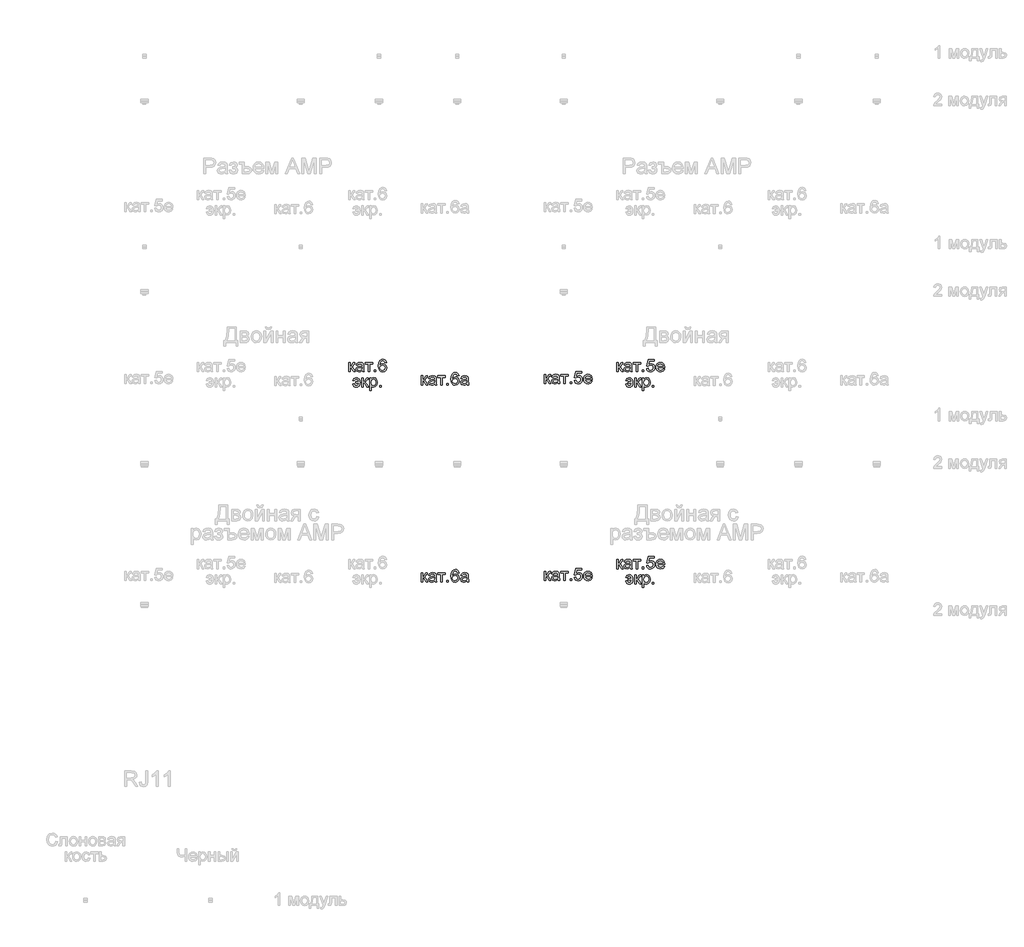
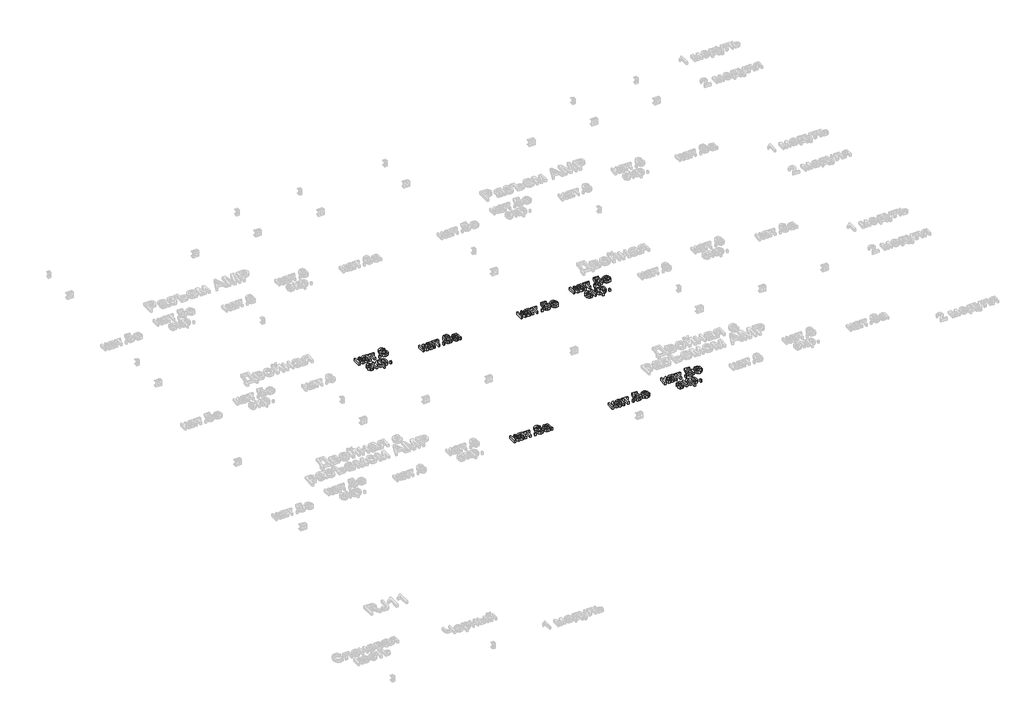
# One storey, part 29 of 47: 7 proxies.
"""IFC4 building model written with IfcOpenShell, lengths in millimetres."""

from ifc_helpers import new_model, si_unit, origin, origin_with_axes, place, context, project, spatial, polyline, outline, extrude, element, save

model = new_model("IFC4")

# Units and contexts
model_context = context("Model", 3, world=origin())
ifc_project = project(units=[si_unit("LENGTHUNIT", "METRE", prefix="MILLI")], contexts=[model_context])

# Site, building, storey
site = spatial("IfcSite", under=ifc_project)
building = spatial("IfcBuilding", under=site)
storey = spatial("IfcBuildingStorey", under=building, Name="Этаж 01", Elevation=0.0)

# Proxies
placement = place(None, origin())
element("IfcBuildingElementProxy", 1, Name="80 мм Arial", ObjectType="80 мм Arial", at=placement, inside=storey, context=model_context, shape_type="SweptSolid", body=[
    extrude(outline(polyline([(4090.9396889, -22278.8197599), (4100.9853199, -22278.8197599), (4100.9853199, -22303.9338374), (4107.7151079, -22302.1287631), (4113.2284327, -22291.6122431), (4117.8097899, -22282.5378206), (4121.8515867, -22279.5849544), (4129.1994164, -22278.8197599), (4131.122213, -22278.8197599), (4131.122213, -22288.924252), (4128.4146015, -22288.8653909), (4123.5095082, -22289.924891), (4120.0563226, -22296.5369568), (4116.0047155, -22303.6885828), (4110.3246175, -22307.1908193), (4116.661998, -22311.1001787), (4122.8816563, -22319.3358303), (4133.6336207, -22337.8378421), (4122.2145636, -22337.8378421), (4111.6784233, -22319.7282377), (4106.3809225, -22312.0664821), (4100.9853199, -22310.2123568), (4100.9853199, -22337.8378421), (4090.9396889, -22337.8378421), (4090.9396889, -22278.8197599)])), origin_with_axes(), (0.0, 0.0, 1.0), 20.0),
    extrude(outline(polyline([(4177.5832564, -22330.3036188), (4167.8417412, -22337.1118883), (4157.0799666, -22339.093546), (4142.4922192, -22334.3257953), (4137.4007324, -22322.1415436), (4139.3235289, -22314.1952925), (4144.375775, -22308.4269029), (4151.4096787, -22305.1306802), (4160.101504, -22303.6199114), (4177.5243953, -22300.1667258), (4177.5832564, -22297.9300033), (4174.8167838, -22290.5135022), (4163.7116527, -22287.609687), (4153.5482994, -22289.5422938), (4148.7020673, -22296.3996142), (4138.6564362, -22295.1439103), (4143.0023489, -22285.3337237), (4151.7530353, -22279.5849544), (4165.0065973, -22277.564056), (4177.1810388, -22279.34951), (4184.0579795, -22283.8327652), (4187.1383781, -22290.6508448), (4187.6288874, -22299.440772), (4187.6288874, -22311.9389496), (4188.1390171, -22329.3912715), (4190.1402952, -22337.8378421), (4180.0946642, -22337.8378421), (4177.5832564, -22330.3036188)]), holes=[polyline([(4177.5832564, -22310.2123568), (4161.3768283, -22313.2927554), (4152.7340539, -22314.9212463), (4148.8197895, -22317.5699967), (4147.4463634, -22321.4352102), (4150.4384703, -22326.8700535), (4159.2185872, -22329.047915), (4169.3819405, -22326.6444193), (4175.9351451, -22320.8269786), (4177.5243953, -22313.0573109), (4177.5832564, -22310.2123568)])]), origin_with_axes(), (0.0, 0.0, 1.0), 20.0),
    extrude(outline(polyline([(4196.4188146, -22278.8197599), (4244.1355619, -22278.8197599), (4244.1355619, -22288.8653909), (4225.3000037, -22288.8653909), (4225.3000037, -22337.8378421), (4215.2543727, -22337.8378421), (4215.2543727, -22288.8653909), (4196.4188146, -22288.8653909), (4196.4188146, -22278.8197599)])), origin_with_axes(), (0.0, 0.0, 1.0), 20.0),
    extrude(outline(polyline([(4255.4368968, -22337.8378421), (4255.4368968, -22327.7922111), (4265.4825278, -22327.7922111), (4265.4825278, -22337.8378421), (4255.4368968, -22337.8378421)])), origin_with_axes(), (0.0, 0.0, 1.0), 20.0),
    extrude(outline(polyline([(4333.2905372, -22278.8197599), (4323.2449061, -22280.0754638), (4319.4385538, -22271.6975645), (4309.3733024, -22267.518425), (4300.30869, -22269.9513512), (4293.4513696, -22279.0846349), (4290.5966053, -22296.9882253), (4299.4552038, -22288.9733029), (4310.4328025, -22286.3539831), (4319.713239, -22288.1443422), (4327.5025271, -22293.5154193), (4332.7853126, -22301.7216404), (4334.546241, -22312.0174311), (4331.230398, -22325.8792247), (4322.1069245, -22335.6894112), (4308.9416542, -22339.093546), (4297.54467, -22336.8372031), (4288.4677949, -22330.0681744), (4282.5301795, -22318.1193672), (4280.5509743, -22300.3236888), (4282.7484561, -22280.3158133), (4289.3409015, -22266.6355082), (4298.3417476, -22259.7634725), (4310.0011543, -22257.472794), (4318.8156069, -22258.8903659), (4325.8740361, -22263.1430818), (4333.2905372, -22278.8197599)]), holes=[polyline([(4290.5966053, -22311.8604681), (4292.9216196, -22320.5621036), (4299.1020371, -22326.8798637), (4308.1568392, -22329.047915), (4319.9977344, -22324.5548495), (4324.50061, -22312.3509775), (4320.0565955, -22300.6670453), (4307.7448114, -22296.3996142), (4295.5899903, -22300.6670453), (4290.5966053, -22311.8604681)])]), origin_with_axes(), (0.0, 0.0, 1.0), 20.0),
    extrude(outline(polyline([(4135.5171766, -22399.0022839), (4154.3527347, -22399.0022839), (4149.8106183, -22389.0253242), (4140.2653068, -22385.1895413), (4132.122852, -22387.700949), (4127.9829533, -22395.2351723), (4117.9373223, -22393.9794684), (4124.8338834, -22380.4119804), (4139.6570753, -22375.1439103), (4149.9111727, -22377.1942393), (4157.7568694, -22383.3452262), (4162.7379916, -22393.0867415), (4164.3983657, -22405.9086553), (4163.0273922, -22418.6717079), (4158.2866195, -22428.7075288), (4150.5390247, -22435.0350991), (4140.1475846, -22436.6734002), (4131.2399352, -22435.2043248), (4124.2158417, -22430.7970985), (4116.6816184, -22415.3264343), (4126.7272494, -22414.0707305), (4131.0535417, -22423.4885095), (4139.9906216, -22426.6277692), (4149.9381508, -22422.2328057), (4154.3527347, -22409.047915), (4135.5171766, -22409.047915), (4135.5171766, -22399.0022839)])), origin_with_axes(), (0.0, 0.0, 1.0), 20.0),
    extrude(outline(polyline([(4175.6997006, -22376.3996142), (4185.7453316, -22376.3996142), (4185.7453316, -22401.5136917), (4192.4751196, -22399.7086174), (4197.9884444, -22389.1920974), (4202.5698015, -22380.1176749), (4206.6115984, -22377.1648087), (4213.9594281, -22376.3996142), (4215.8822247, -22376.3996142), (4215.8822247, -22386.5041063), (4213.1746132, -22386.4452452), (4208.2695199, -22387.5047453), (4204.8163343, -22394.116811), (4200.7647272, -22401.268437), (4195.0846292, -22404.7706736), (4201.4220097, -22408.680033), (4207.641668, -22416.9156846), (4218.3936324, -22435.4176964), (4206.9745753, -22435.4176964), (4196.438435, -22417.308092), (4191.1409342, -22409.6463363), (4185.7453316, -22407.7922111), (4185.7453316, -22435.4176964), (4175.6997006, -22435.4176964), (4175.6997006, -22376.3996142)])), origin_with_axes(), (0.0, 0.0, 1.0), 20.0),
    extrude(outline(polyline([(4224.6721518, -22458.0203662), (4224.6721518, -22376.3996142), (4234.7177828, -22376.3996142), (4234.7177828, -22386.2490414), (4241.6633949, -22377.9201931), (4251.0419332, -22375.1439103), (4263.7755553, -22379.0287441), (4272.0945935, -22389.9769123), (4274.9003069, -22405.4573867), (4271.7316166, -22421.7324861), (4262.5296617, -22432.8179969), (4249.8254701, -22436.6734002), (4241.0845939, -22434.0933212), (4234.7177828, -22427.5695471), (4234.7177828, -22458.0203662), (4224.6721518, -22458.0203662)]), holes=[polyline([(4234.7177828, -22406.3795442), (4239.0636955, -22421.6834352), (4249.609646, -22426.6277692), (4260.3714206, -22421.5068519), (4264.8546759, -22405.63397), (4260.4793327, -22390.2908383), (4250.0216738, -22385.1895413), (4239.3580011, -22390.6145744), (4234.7177828, -22406.3795442)])]), origin_with_axes(), (0.0, 0.0, 1.0), 20.0),
    extrude(outline(polyline([(4288.7130495, -22435.4176964), (4288.7130495, -22425.3720654), (4298.7586805, -22425.3720654), (4298.7586805, -22435.4176964), (4288.7130495, -22435.4176964)])), origin_with_axes(), (0.0, 0.0, 1.0), 20.0),
])
element("IfcBuildingElementProxy", 2, Name="80 мм Arial", ObjectType="80 мм Arial", at=placement, inside=storey, context=model_context, shape_type="SweptSolid", body=[
    extrude(outline(polyline([(4554.3437127, -22363.42412), (4564.3893437, -22363.42412), (4564.3893437, -22388.5381975), (4571.1191317, -22386.7331232), (4576.6324565, -22376.2166032), (4581.2138137, -22367.1421807), (4585.2556105, -22364.1893145), (4592.6034402, -22363.42412), (4594.5262368, -22363.42412), (4594.5262368, -22373.5286121), (4591.8186253, -22373.469751), (4586.913532, -22374.5292512), (4583.4603464, -22381.1413169), (4579.4087393, -22388.2929429), (4573.7286413, -22391.7951795), (4580.0660218, -22395.7045388), (4586.2856801, -22403.9401904), (4597.0376445, -22422.4422022), (4585.6185874, -22422.4422022), (4575.0824471, -22404.3325979), (4569.7849463, -22396.6708422), (4564.3893437, -22394.8167169), (4564.3893437, -22422.4422022), (4554.3437127, -22422.4422022), (4554.3437127, -22363.42412)])), origin_with_axes(), (0.0, 0.0, 1.0), 20.0),
    extrude(outline(polyline([(4640.9872802, -22414.9079789), (4631.245765, -22421.7162484), (4620.4839904, -22423.6979061), (4605.896243, -22418.9301554), (4600.8047562, -22406.7459037), (4602.7275527, -22398.7996526), (4607.7797988, -22393.031263), (4614.8137026, -22389.7350403), (4623.5055278, -22388.2242716), (4640.9284191, -22384.7710859), (4640.9872802, -22382.5343634), (4638.2208076, -22375.1178623), (4627.1156765, -22372.2140471), (4616.9523232, -22374.1466539), (4612.1060911, -22381.0039743), (4602.0604601, -22379.7482704), (4606.4063727, -22369.9380839), (4615.1570591, -22364.1893145), (4628.4106211, -22362.1684161), (4640.5850626, -22363.9538701), (4647.4620034, -22368.4371253), (4650.5424019, -22375.255205), (4651.0329113, -22384.0451321), (4651.0329113, -22396.5433097), (4651.543041, -22413.9956316), (4653.544319, -22422.4422022), (4643.498688, -22422.4422022), (4640.9872802, -22414.9079789)]), holes=[polyline([(4640.9872802, -22394.8167169), (4624.7808521, -22397.8971155), (4616.1380777, -22399.5256065), (4612.2238133, -22402.1743568), (4610.8503872, -22406.0395703), (4613.8424941, -22411.4744137), (4622.622611, -22413.6522751), (4632.7859643, -22411.2487794), (4639.3391689, -22405.4313387), (4640.9284191, -22397.661671), (4640.9872802, -22394.8167169)])]), origin_with_axes(), (0.0, 0.0, 1.0), 20.0),
    extrude(outline(polyline([(4659.8228384, -22363.42412), (4707.5395857, -22363.42412), (4707.5395857, -22373.469751), (4688.7040276, -22373.469751), (4688.7040276, -22422.4422022), (4678.6583965, -22422.4422022), (4678.6583965, -22373.469751), (4659.8228384, -22373.469751), (4659.8228384, -22363.42412)])), origin_with_axes(), (0.0, 0.0, 1.0), 20.0),
    extrude(outline(polyline([(4718.8409206, -22422.4422022), (4718.8409206, -22412.3965712), (4728.8865516, -22412.3965712), (4728.8865516, -22422.4422022), (4718.8409206, -22422.4422022)])), origin_with_axes(), (0.0, 0.0, 1.0), 20.0),
    extrude(outline(polyline([(4796.694561, -22363.42412), (4786.64893, -22364.6798239), (4782.8425776, -22356.3019246), (4772.7773262, -22352.1227851), (4763.7127138, -22354.5557114), (4756.8553934, -22363.688995), (4754.0006292, -22381.5925855), (4762.8592276, -22373.5776631), (4773.8368263, -22370.9583433), (4783.1172628, -22372.7487023), (4790.9065509, -22378.1197794), (4796.1893364, -22386.3260005), (4797.9502648, -22396.6217912), (4794.6344218, -22410.4835848), (4785.5109483, -22420.2937714), (4772.345678, -22423.6979061), (4760.9486938, -22421.4415632), (4751.8718187, -22414.6725345), (4745.9342033, -22402.7237273), (4743.9549981, -22384.9280489), (4746.1524799, -22364.9201734), (4752.7449253, -22351.2398683), (4761.7457714, -22344.3678326), (4773.4051781, -22342.0771541), (4782.2196307, -22343.494726), (4789.2780599, -22347.7474419), (4796.694561, -22363.42412)]), holes=[polyline([(4754.0006292, -22396.4648283), (4756.3256434, -22405.1664637), (4762.5060609, -22411.4842238), (4771.5608631, -22413.6522751), (4783.4017582, -22409.1592096), (4787.9046338, -22396.9553376), (4783.4606193, -22385.2714054), (4771.1488352, -22381.0039743), (4758.9940141, -22385.2714054), (4754.0006292, -22396.4648283)])]), origin_with_axes(), (0.0, 0.0, 1.0), 20.0),
    extrude(outline(polyline([(4846.922716, -22414.9079789), (4837.1812008, -22421.7162484), (4826.4194262, -22423.6979061), (4811.8316788, -22418.9301554), (4806.740192, -22406.7459037), (4808.6629885, -22398.7996526), (4813.7152346, -22393.031263), (4820.7491384, -22389.7350403), (4829.4409636, -22388.2242716), (4846.8638549, -22384.7710859), (4846.922716, -22382.5343634), (4844.1562434, -22375.1178623), (4833.0511123, -22372.2140471), (4822.887759, -22374.1466539), (4818.0415269, -22381.0039743), (4807.9958959, -22379.7482704), (4812.3418085, -22369.9380839), (4821.0924949, -22364.1893145), (4834.3460569, -22362.1684161), (4846.5204984, -22363.9538701), (4853.3974392, -22368.4371253), (4856.4778377, -22375.255205), (4856.9683471, -22384.0451321), (4856.9683471, -22396.5433097), (4857.4784768, -22413.9956316), (4859.4797548, -22422.4422022), (4849.4341238, -22422.4422022), (4846.922716, -22414.9079789)]), holes=[polyline([(4846.922716, -22394.8167169), (4830.7162879, -22397.8971155), (4822.0735135, -22399.5256065), (4818.1592491, -22402.1743568), (4816.785823, -22406.0395703), (4819.7779299, -22411.4744137), (4828.5580468, -22413.6522751), (4838.7214001, -22411.2487794), (4845.2746047, -22405.4313387), (4846.8638549, -22397.661671), (4846.922716, -22394.8167169)])]), origin_with_axes(), (0.0, 0.0, 1.0), 20.0),
])
element("IfcBuildingElementProxy", 3, Name="80 мм Arial", ObjectType="80 мм Arial", at=placement, inside=storey, context=model_context, shape_type="SweptSolid", body=[
    extrude(outline(polyline([(4554.3437127, -23623.42412), (4564.3893437, -23623.42412), (4564.3893437, -23648.5381975), (4571.1191317, -23646.7331232), (4576.6324565, -23636.2166032), (4581.2138137, -23627.1421807), (4585.2556105, -23624.1893145), (4592.6034402, -23623.42412), (4594.5262368, -23623.42412), (4594.5262368, -23633.5286121), (4591.8186253, -23633.469751), (4586.913532, -23634.5292512), (4583.4603464, -23641.1413169), (4579.4087393, -23648.2929429), (4573.7286413, -23651.7951795), (4580.0660218, -23655.7045388), (4586.2856801, -23663.9401904), (4597.0376445, -23682.4422022), (4585.6185874, -23682.4422022), (4575.0824471, -23664.3325979), (4569.7849463, -23656.6708422), (4564.3893437, -23654.8167169), (4564.3893437, -23682.4422022), (4554.3437127, -23682.4422022), (4554.3437127, -23623.42412)])), origin_with_axes(), (0.0, 0.0, 1.0), 20.0),
    extrude(outline(polyline([(4640.9872802, -23674.9079789), (4631.245765, -23681.7162484), (4620.4839904, -23683.6979061), (4605.896243, -23678.9301554), (4600.8047562, -23666.7459037), (4602.7275527, -23658.7996526), (4607.7797988, -23653.031263), (4614.8137026, -23649.7350403), (4623.5055278, -23648.2242716), (4640.9284191, -23644.7710859), (4640.9872802, -23642.5343634), (4638.2208076, -23635.1178623), (4627.1156765, -23632.2140471), (4616.9523232, -23634.1466539), (4612.1060911, -23641.0039743), (4602.0604601, -23639.7482704), (4606.4063727, -23629.9380839), (4615.1570591, -23624.1893145), (4628.4106211, -23622.1684161), (4640.5850626, -23623.9538701), (4647.4620034, -23628.4371253), (4650.5424019, -23635.255205), (4651.0329113, -23644.0451321), (4651.0329113, -23656.5433097), (4651.543041, -23673.9956316), (4653.544319, -23682.4422022), (4643.498688, -23682.4422022), (4640.9872802, -23674.9079789)]), holes=[polyline([(4640.9872802, -23654.8167169), (4624.7808521, -23657.8971155), (4616.1380777, -23659.5256065), (4612.2238133, -23662.1743568), (4610.8503872, -23666.0395703), (4613.8424941, -23671.4744137), (4622.622611, -23673.6522751), (4632.7859643, -23671.2487794), (4639.3391689, -23665.4313387), (4640.9284191, -23657.661671), (4640.9872802, -23654.8167169)])]), origin_with_axes(), (0.0, 0.0, 1.0), 20.0),
    extrude(outline(polyline([(4659.8228384, -23623.42412), (4707.5395857, -23623.42412), (4707.5395857, -23633.469751), (4688.7040276, -23633.469751), (4688.7040276, -23682.4422022), (4678.6583965, -23682.4422022), (4678.6583965, -23633.469751), (4659.8228384, -23633.469751), (4659.8228384, -23623.42412)])), origin_with_axes(), (0.0, 0.0, 1.0), 20.0),
    extrude(outline(polyline([(4718.8409206, -23682.4422022), (4718.8409206, -23672.3965712), (4728.8865516, -23672.3965712), (4728.8865516, -23682.4422022), (4718.8409206, -23682.4422022)])), origin_with_axes(), (0.0, 0.0, 1.0), 20.0),
    extrude(outline(polyline([(4796.694561, -23623.42412), (4786.64893, -23624.6798239), (4782.8425776, -23616.3019246), (4772.7773262, -23612.1227851), (4763.7127138, -23614.5557114), (4756.8553934, -23623.688995), (4754.0006292, -23641.5925855), (4762.8592276, -23633.5776631), (4773.8368263, -23630.9583433), (4783.1172628, -23632.7487023), (4790.9065509, -23638.1197794), (4796.1893364, -23646.3260005), (4797.9502648, -23656.6217912), (4794.6344218, -23670.4835848), (4785.5109483, -23680.2937714), (4772.345678, -23683.6979061), (4760.9486938, -23681.4415632), (4751.8718187, -23674.6725345), (4745.9342033, -23662.7237273), (4743.9549981, -23644.9280489), (4746.1524799, -23624.9201734), (4752.7449253, -23611.2398683), (4761.7457714, -23604.3678326), (4773.4051781, -23602.0771541), (4782.2196307, -23603.494726), (4789.2780599, -23607.7474419), (4796.694561, -23623.42412)]), holes=[polyline([(4754.0006292, -23656.4648283), (4756.3256434, -23665.1664637), (4762.5060609, -23671.4842238), (4771.5608631, -23673.6522751), (4783.4017582, -23669.1592096), (4787.9046338, -23656.9553376), (4783.4606193, -23645.2714054), (4771.1488352, -23641.0039743), (4758.9940141, -23645.2714054), (4754.0006292, -23656.4648283)])]), origin_with_axes(), (0.0, 0.0, 1.0), 20.0),
    extrude(outline(polyline([(4846.922716, -23674.9079789), (4837.1812008, -23681.7162484), (4826.4194262, -23683.6979061), (4811.8316788, -23678.9301554), (4806.740192, -23666.7459037), (4808.6629885, -23658.7996526), (4813.7152346, -23653.031263), (4820.7491384, -23649.7350403), (4829.4409636, -23648.2242716), (4846.8638549, -23644.7710859), (4846.922716, -23642.5343634), (4844.1562434, -23635.1178623), (4833.0511123, -23632.2140471), (4822.887759, -23634.1466539), (4818.0415269, -23641.0039743), (4807.9958959, -23639.7482704), (4812.3418085, -23629.9380839), (4821.0924949, -23624.1893145), (4834.3460569, -23622.1684161), (4846.5204984, -23623.9538701), (4853.3974392, -23628.4371253), (4856.4778377, -23635.255205), (4856.9683471, -23644.0451321), (4856.9683471, -23656.5433097), (4857.4784768, -23673.9956316), (4859.4797548, -23682.4422022), (4849.4341238, -23682.4422022), (4846.922716, -23674.9079789)]), holes=[polyline([(4846.922716, -23654.8167169), (4830.7162879, -23657.8971155), (4822.0735135, -23659.5256065), (4818.1592491, -23662.1743568), (4816.785823, -23666.0395703), (4819.7779299, -23671.4744137), (4828.5580468, -23673.6522751), (4838.7214001, -23671.2487794), (4845.2746047, -23665.4313387), (4846.8638549, -23657.661671), (4846.922716, -23654.8167169)])]), origin_with_axes(), (0.0, 0.0, 1.0), 20.0),
])
element("IfcBuildingElementProxy", 4, Name="80 мм Arial", ObjectType="80 мм Arial", at=placement, inside=storey, context=model_context, shape_type="SweptSolid", body=[
    extrude(outline(polyline([(5341.6064135, -22354.963684), (5351.6520445, -22354.963684), (5351.6520445, -22380.0777615), (5358.3818324, -22378.2726872), (5363.8951573, -22367.7561672), (5368.4765144, -22358.6817447), (5372.5183112, -22355.7288785), (5379.866141, -22354.963684), (5381.7889375, -22354.963684), (5381.7889375, -22365.0681761), (5379.081326, -22365.009315), (5374.1762328, -22366.0688151), (5370.7230471, -22372.6808809), (5366.6714401, -22379.8325069), (5360.9913421, -22383.3347434), (5367.3287226, -22387.2441028), (5373.5483808, -22395.4797544), (5384.3003453, -22413.9817662), (5372.8812881, -22413.9817662), (5362.3451478, -22395.8721618), (5357.0476471, -22388.2104062), (5351.6520445, -22386.3562809), (5351.6520445, -22413.9817662), (5341.6064135, -22413.9817662), (5341.6064135, -22354.963684)])), origin_with_axes(), (0.0, 0.0, 1.0), 20.0),
    extrude(outline(polyline([(5428.249981, -22406.4475429), (5418.5084657, -22413.2558124), (5407.7466911, -22415.2374701), (5393.1589437, -22410.4697194), (5388.0674569, -22398.2854677), (5389.9902535, -22390.3392166), (5395.0424995, -22384.570827), (5402.0764033, -22381.2746043), (5410.7682285, -22379.7638355), (5428.1911198, -22376.3106499), (5428.249981, -22374.0739274), (5425.4835084, -22366.6574263), (5414.3783772, -22363.7536111), (5404.2150239, -22365.6862179), (5399.3687918, -22372.5435383), (5389.3231608, -22371.2878344), (5393.6690734, -22361.4776478), (5402.4197598, -22355.7288785), (5415.6733218, -22353.7079801), (5427.8477633, -22355.4934341), (5434.7247041, -22359.9766893), (5437.8051026, -22366.7947689), (5438.295612, -22375.5846961), (5438.295612, -22388.0828737), (5438.8057417, -22405.5351956), (5440.8070197, -22413.9817662), (5430.7613887, -22413.9817662), (5428.249981, -22406.4475429)]), holes=[polyline([(5428.249981, -22386.3562809), (5412.0435528, -22389.4366795), (5403.4007785, -22391.0651704), (5399.486514, -22393.7139208), (5398.1130879, -22397.5791343), (5401.1051948, -22403.0139776), (5409.8853118, -22405.1918391), (5420.048665, -22402.7883434), (5426.6018696, -22396.9709027), (5428.1911198, -22389.201235), (5428.249981, -22386.3562809)])]), origin_with_axes(), (0.0, 0.0, 1.0), 20.0),
    extrude(outline(polyline([(5447.0855391, -22354.963684), (5494.8022864, -22354.963684), (5494.8022864, -22365.009315), (5475.9667283, -22365.009315), (5475.9667283, -22413.9817662), (5465.9210973, -22413.9817662), (5465.9210973, -22365.009315), (5447.0855391, -22365.009315), (5447.0855391, -22354.963684)])), origin_with_axes(), (0.0, 0.0, 1.0), 20.0),
    extrude(outline(polyline([(5506.1036213, -22413.9817662), (5506.1036213, -22403.9361352), (5516.1492523, -22403.9361352), (5516.1492523, -22413.9817662), (5506.1036213, -22413.9817662)])), origin_with_axes(), (0.0, 0.0, 1.0), 20.0),
    extrude(outline(polyline([(5532.4734027, -22392.6348003), (5542.5190338, -22391.3790964), (5547.58109, -22401.7288432), (5558.0779896, -22405.1918391), (5570.6742691, -22400.3750375), (5575.1673346, -22387.5923644), (5570.9587645, -22375.6631776), (5558.2349526, -22371.2878344), (5549.4155949, -22373.0340476), (5543.7747376, -22377.5663538), (5533.7291066, -22376.3106499), (5542.5190338, -22334.872422), (5581.4458539, -22334.872422), (5581.4458539, -22344.918053), (5550.6418682, -22344.918053), (5546.3450065, -22367.0498338), (5561.0406659, -22361.2422034), (5570.4265619, -22363.0423726), (5578.2183026, -22368.4428803), (5583.4642998, -22376.6736268), (5585.2129656, -22386.9645125), (5583.6384306, -22397.0101435), (5578.9148258, -22405.6038669), (5569.8698338, -22412.8290693), (5558.0387489, -22415.2374701), (5548.1721537, -22413.6899131), (5540.3117418, -22409.0472424), (5534.9234968, -22401.849018), (5532.4734027, -22392.6348003)])), origin_with_axes(), (0.0, 0.0, 1.0), 20.0),
    extrude(outline(polyline([(5637.8348062, -22396.4019119), (5647.6842334, -22397.6576158), (5638.4724683, -22410.6266824), (5621.314452, -22415.2374701), (5609.5275129, -22413.2484548), (5600.4579954, -22407.2814088), (5594.6748905, -22397.7238346), (5592.7471888, -22384.9632344), (5594.6945109, -22371.7734386), (5600.5364769, -22361.9092961), (5609.4833671, -22355.7583091), (5620.7454612, -22353.7079801), (5631.6568412, -22355.753404), (5640.3756445, -22361.8896757), (5646.0925307, -22371.7341979), (5647.9981594, -22384.9043733), (5647.9392983, -22387.6119848), (5602.7928198, -22387.6119848), (5608.5710197, -22400.6595329), (5621.5106558, -22405.1918391), (5631.360083, -22403.0924591), (5637.8348062, -22396.4019119)]), holes=[polyline([(5602.7928198, -22377.5663538), (5637.9525284, -22377.5663538), (5633.9303519, -22368.4625007), (5620.7062205, -22363.7536111), (5608.3355752, -22367.5109126), (5602.7928198, -22377.5663538)])]), origin_with_axes(), (0.0, 0.0, 1.0), 20.0),
])
element("IfcBuildingElementProxy", 5, Name="80 мм Arial", ObjectType="80 мм Arial", at=placement, inside=storey, context=model_context, shape_type="SweptSolid", body=[
    extrude(outline(polyline([(5804.2827356, -22278.8197599), (5814.3283666, -22278.8197599), (5814.3283666, -22303.9338374), (5821.0581546, -22302.1287631), (5826.5714794, -22291.6122431), (5831.1528365, -22282.5378206), (5835.1946334, -22279.5849544), (5842.5424631, -22278.8197599), (5844.4652597, -22278.8197599), (5844.4652597, -22288.924252), (5841.7576482, -22288.8653909), (5836.8525549, -22289.924891), (5833.3993693, -22296.5369568), (5829.3477622, -22303.6885828), (5823.6676642, -22307.1908193), (5830.0050447, -22311.1001787), (5836.224703, -22319.3358303), (5846.9766674, -22337.8378421), (5835.5576103, -22337.8378421), (5825.02147, -22319.7282377), (5819.7239692, -22312.0664821), (5814.3283666, -22310.2123568), (5814.3283666, -22337.8378421), (5804.2827356, -22337.8378421), (5804.2827356, -22278.8197599)])), origin_with_axes(), (0.0, 0.0, 1.0), 20.0),
    extrude(outline(polyline([(5890.9263031, -22330.3036188), (5881.1847879, -22337.1118883), (5870.4230133, -22339.093546), (5855.8352659, -22334.3257953), (5850.7437791, -22322.1415436), (5852.6665756, -22314.1952925), (5857.7188217, -22308.4269029), (5864.7527254, -22305.1306802), (5873.4445507, -22303.6199114), (5890.867442, -22300.1667258), (5890.9263031, -22297.9300033), (5888.1598305, -22290.5135022), (5877.0546994, -22287.609687), (5866.8913461, -22289.5422938), (5862.045114, -22296.3996142), (5851.9994829, -22295.1439103), (5856.3453956, -22285.3337237), (5865.096082, -22279.5849544), (5878.349644, -22277.564056), (5890.5240855, -22279.34951), (5897.4010262, -22283.8327652), (5900.4814248, -22290.6508448), (5900.9719341, -22299.440772), (5900.9719341, -22311.9389496), (5901.4820638, -22329.3912715), (5903.4833419, -22337.8378421), (5893.4377109, -22337.8378421), (5890.9263031, -22330.3036188)]), holes=[polyline([(5890.9263031, -22310.2123568), (5874.719875, -22313.2927554), (5866.0771006, -22314.9212463), (5862.1628362, -22317.5699967), (5860.7894101, -22321.4352102), (5863.781517, -22326.8700535), (5872.5616339, -22329.047915), (5882.7249872, -22326.6444193), (5889.2781918, -22320.8269786), (5890.867442, -22313.0573109), (5890.9263031, -22310.2123568)])]), origin_with_axes(), (0.0, 0.0, 1.0), 20.0),
    extrude(outline(polyline([(5909.7618613, -22278.8197599), (5957.4786086, -22278.8197599), (5957.4786086, -22288.8653909), (5938.6430504, -22288.8653909), (5938.6430504, -22337.8378421), (5928.5974194, -22337.8378421), (5928.5974194, -22288.8653909), (5909.7618613, -22288.8653909), (5909.7618613, -22278.8197599)])), origin_with_axes(), (0.0, 0.0, 1.0), 20.0),
    extrude(outline(polyline([(5968.7799435, -22337.8378421), (5968.7799435, -22327.7922111), (5978.8255745, -22327.7922111), (5978.8255745, -22337.8378421), (5968.7799435, -22337.8378421)])), origin_with_axes(), (0.0, 0.0, 1.0), 20.0),
    extrude(outline(polyline([(5995.1497249, -22316.4908762), (6005.1953559, -22315.2351723), (6010.2574122, -22325.5849191), (6020.7543118, -22329.047915), (6033.3505913, -22324.2311134), (6037.8436567, -22311.4484403), (6033.6350867, -22299.5192535), (6020.9112748, -22295.1439103), (6012.0919171, -22296.8901235), (6006.4510598, -22301.4224297), (5996.4054288, -22300.1667258), (6005.1953559, -22258.7284978), (6044.1221761, -22258.7284978), (6044.1221761, -22268.7741289), (6013.3181904, -22268.7741289), (6009.0213287, -22290.9059097), (6023.7169881, -22285.0982793), (6033.1028841, -22286.8984485), (6040.8946247, -22292.2989562), (6046.140622, -22300.5297027), (6047.8892877, -22310.8205884), (6046.3147528, -22320.8662194), (6041.591148, -22329.4599428), (6032.546156, -22336.6851452), (6020.715071, -22339.093546), (6010.8484759, -22337.545989), (6002.9880639, -22332.9033183), (5997.599819, -22325.7050939), (5995.1497249, -22316.4908762)])), origin_with_axes(), (0.0, 0.0, 1.0), 20.0),
    extrude(outline(polyline([(6100.5111283, -22320.2579878), (6110.3605556, -22321.5136917), (6101.1487904, -22334.4827583), (6083.9907742, -22339.093546), (6072.2038351, -22337.1045306), (6063.1343176, -22331.1374847), (6057.3512126, -22321.5799105), (6055.423511, -22308.8193103), (6057.370833, -22295.6295145), (6063.2127991, -22285.7653719), (6072.1596892, -22279.614385), (6083.4217834, -22277.564056), (6094.3331634, -22279.6094799), (6103.0519666, -22285.7457516), (6108.7688528, -22295.5902738), (6110.6744816, -22308.7604492), (6110.6156205, -22311.4680607), (6065.469142, -22311.4680607), (6071.2473419, -22324.5156088), (6084.1869779, -22329.047915), (6094.0364052, -22326.948535), (6100.5111283, -22320.2579878)]), holes=[polyline([(6065.469142, -22301.4224297), (6100.6288506, -22301.4224297), (6096.6066741, -22292.3185766), (6083.3825426, -22287.609687), (6071.0118974, -22291.3669885), (6065.469142, -22301.4224297)])]), origin_with_axes(), (0.0, 0.0, 1.0), 20.0),
    extrude(outline(polyline([(5879.6249682, -22399.0022839), (5898.4605264, -22399.0022839), (5893.91841, -22389.0253242), (5884.3730985, -22385.1895413), (5876.2306437, -22387.700949), (5872.090745, -22395.2351723), (5862.045114, -22393.9794684), (5868.9416751, -22380.4119804), (5883.764867, -22375.1439103), (5894.0189644, -22377.1942393), (5901.8646611, -22383.3452262), (5906.8457833, -22393.0867415), (5908.5061574, -22405.9086553), (5907.1351838, -22418.6717079), (5902.3944112, -22428.7075288), (5894.6468164, -22435.0350991), (5884.2553763, -22436.6734002), (5875.3477269, -22435.2043248), (5868.3236333, -22430.7970985), (5860.7894101, -22415.3264343), (5870.8350411, -22414.0707305), (5875.1613334, -22423.4885095), (5884.0984133, -22426.6277692), (5894.0459424, -22422.2328057), (5898.4605264, -22409.047915), (5879.6249682, -22409.047915), (5879.6249682, -22399.0022839)])), origin_with_axes(), (0.0, 0.0, 1.0), 20.0),
    extrude(outline(polyline([(5919.8074923, -22376.3996142), (5929.8531233, -22376.3996142), (5929.8531233, -22401.5136917), (5936.5829113, -22399.7086174), (5942.0962361, -22389.1920974), (5946.6775932, -22380.1176749), (5950.7193901, -22377.1648087), (5958.0672198, -22376.3996142), (5959.9900164, -22376.3996142), (5959.9900164, -22386.5041063), (5957.2824049, -22386.4452452), (5952.3773116, -22387.5047453), (5948.9241259, -22394.116811), (5944.8725189, -22401.268437), (5939.1924209, -22404.7706736), (5945.5298014, -22408.680033), (5951.7494597, -22416.9156846), (5962.5014241, -22435.4176964), (5951.082367, -22435.4176964), (5940.5462266, -22417.308092), (5935.2487259, -22409.6463363), (5929.8531233, -22407.7922111), (5929.8531233, -22435.4176964), (5919.8074923, -22435.4176964), (5919.8074923, -22376.3996142)])), origin_with_axes(), (0.0, 0.0, 1.0), 20.0),
    extrude(outline(polyline([(5968.7799435, -22458.0203662), (5968.7799435, -22376.3996142), (5978.8255745, -22376.3996142), (5978.8255745, -22386.2490414), (5985.7711866, -22377.9201931), (5995.1497249, -22375.1439103), (6007.883347, -22379.0287441), (6016.2023852, -22389.9769123), (6019.0080986, -22405.4573867), (6015.8394083, -22421.7324861), (6006.6374533, -22432.8179969), (5993.9332618, -22436.6734002), (5985.1923856, -22434.0933212), (5978.8255745, -22427.5695471), (5978.8255745, -22458.0203662), (5968.7799435, -22458.0203662)]), holes=[polyline([(5978.8255745, -22406.3795442), (5983.1714871, -22421.6834352), (5993.7174377, -22426.6277692), (6004.4792123, -22421.5068519), (6008.9624676, -22405.63397), (6004.5871244, -22390.2908383), (5994.1294655, -22385.1895413), (5983.4657927, -22390.6145744), (5978.8255745, -22406.3795442)])]), origin_with_axes(), (0.0, 0.0, 1.0), 20.0),
    extrude(outline(polyline([(6032.8208412, -22435.4176964), (6032.8208412, -22425.3720654), (6042.8664722, -22425.3720654), (6042.8664722, -22435.4176964), (6032.8208412, -22435.4176964)])), origin_with_axes(), (0.0, 0.0, 1.0), 20.0),
])
element("IfcBuildingElementProxy", 6, Name="80 мм Arial", ObjectType="80 мм Arial", at=placement, inside=storey, context=model_context, shape_type="SweptSolid", body=[
    extrude(outline(polyline([(5341.6064135, -23614.963684), (5351.6520445, -23614.963684), (5351.6520445, -23640.0777615), (5358.3818324, -23638.2726872), (5363.8951573, -23627.7561672), (5368.4765144, -23618.6817447), (5372.5183112, -23615.7288785), (5379.866141, -23614.963684), (5381.7889375, -23614.963684), (5381.7889375, -23625.0681761), (5379.081326, -23625.009315), (5374.1762328, -23626.0688151), (5370.7230471, -23632.6808809), (5366.6714401, -23639.8325069), (5360.9913421, -23643.3347434), (5367.3287226, -23647.2441028), (5373.5483808, -23655.4797544), (5384.3003453, -23673.9817662), (5372.8812881, -23673.9817662), (5362.3451478, -23655.8721618), (5357.0476471, -23648.2104062), (5351.6520445, -23646.3562809), (5351.6520445, -23673.9817662), (5341.6064135, -23673.9817662), (5341.6064135, -23614.963684)])), origin_with_axes(), (0.0, 0.0, 1.0), 20.0),
    extrude(outline(polyline([(5428.249981, -23666.4475429), (5418.5084657, -23673.2558124), (5407.7466911, -23675.2374701), (5393.1589437, -23670.4697194), (5388.0674569, -23658.2854677), (5389.9902535, -23650.3392166), (5395.0424995, -23644.570827), (5402.0764033, -23641.2746043), (5410.7682285, -23639.7638355), (5428.1911198, -23636.3106499), (5428.249981, -23634.0739274), (5425.4835084, -23626.6574263), (5414.3783772, -23623.7536111), (5404.2150239, -23625.6862179), (5399.3687918, -23632.5435383), (5389.3231608, -23631.2878344), (5393.6690734, -23621.4776478), (5402.4197598, -23615.7288785), (5415.6733218, -23613.7079801), (5427.8477633, -23615.4934341), (5434.7247041, -23619.9766893), (5437.8051026, -23626.7947689), (5438.295612, -23635.5846961), (5438.295612, -23648.0828737), (5438.8057417, -23665.5351956), (5440.8070197, -23673.9817662), (5430.7613887, -23673.9817662), (5428.249981, -23666.4475429)]), holes=[polyline([(5428.249981, -23646.3562809), (5412.0435528, -23649.4366795), (5403.4007785, -23651.0651704), (5399.486514, -23653.7139208), (5398.1130879, -23657.5791343), (5401.1051948, -23663.0139776), (5409.8853118, -23665.1918391), (5420.048665, -23662.7883434), (5426.6018696, -23656.9709027), (5428.1911198, -23649.201235), (5428.249981, -23646.3562809)])]), origin_with_axes(), (0.0, 0.0, 1.0), 20.0),
    extrude(outline(polyline([(5447.0855391, -23614.963684), (5494.8022864, -23614.963684), (5494.8022864, -23625.009315), (5475.9667283, -23625.009315), (5475.9667283, -23673.9817662), (5465.9210973, -23673.9817662), (5465.9210973, -23625.009315), (5447.0855391, -23625.009315), (5447.0855391, -23614.963684)])), origin_with_axes(), (0.0, 0.0, 1.0), 20.0),
    extrude(outline(polyline([(5506.1036213, -23673.9817662), (5506.1036213, -23663.9361352), (5516.1492523, -23663.9361352), (5516.1492523, -23673.9817662), (5506.1036213, -23673.9817662)])), origin_with_axes(), (0.0, 0.0, 1.0), 20.0),
    extrude(outline(polyline([(5532.4734027, -23652.6348003), (5542.5190338, -23651.3790964), (5547.58109, -23661.7288432), (5558.0779896, -23665.1918391), (5570.6742691, -23660.3750375), (5575.1673346, -23647.5923644), (5570.9587645, -23635.6631776), (5558.2349526, -23631.2878344), (5549.4155949, -23633.0340476), (5543.7747376, -23637.5663538), (5533.7291066, -23636.3106499), (5542.5190338, -23594.872422), (5581.4458539, -23594.872422), (5581.4458539, -23604.918053), (5550.6418682, -23604.918053), (5546.3450065, -23627.0498338), (5561.0406659, -23621.2422034), (5570.4265619, -23623.0423726), (5578.2183026, -23628.4428803), (5583.4642998, -23636.6736268), (5585.2129656, -23646.9645125), (5583.6384306, -23657.0101435), (5578.9148258, -23665.6038669), (5569.8698338, -23672.8290693), (5558.0387489, -23675.2374701), (5548.1721537, -23673.6899131), (5540.3117418, -23669.0472424), (5534.9234968, -23661.849018), (5532.4734027, -23652.6348003)])), origin_with_axes(), (0.0, 0.0, 1.0), 20.0),
    extrude(outline(polyline([(5637.8348062, -23656.4019119), (5647.6842334, -23657.6576158), (5638.4724683, -23670.6266824), (5621.314452, -23675.2374701), (5609.5275129, -23673.2484548), (5600.4579954, -23667.2814088), (5594.6748905, -23657.7238346), (5592.7471888, -23644.9632344), (5594.6945109, -23631.7734386), (5600.5364769, -23621.9092961), (5609.4833671, -23615.7583091), (5620.7454612, -23613.7079801), (5631.6568412, -23615.753404), (5640.3756445, -23621.8896757), (5646.0925307, -23631.7341979), (5647.9981594, -23644.9043733), (5647.9392983, -23647.6119848), (5602.7928198, -23647.6119848), (5608.5710197, -23660.6595329), (5621.5106558, -23665.1918391), (5631.360083, -23663.0924591), (5637.8348062, -23656.4019119)]), holes=[polyline([(5602.7928198, -23637.5663538), (5637.9525284, -23637.5663538), (5633.9303519, -23628.4625007), (5620.7062205, -23623.7536111), (5608.3355752, -23627.5109126), (5602.7928198, -23637.5663538)])]), origin_with_axes(), (0.0, 0.0, 1.0), 20.0),
])
element("IfcBuildingElementProxy", 7, Name="80 мм Arial", ObjectType="80 мм Arial", at=placement, inside=storey, context=model_context, shape_type="SweptSolid", body=[
    extrude(outline(polyline([(5804.2827356, -23538.8197599), (5814.3283666, -23538.8197599), (5814.3283666, -23563.9338374), (5821.0581546, -23562.1287631), (5826.5714794, -23551.6122431), (5831.1528365, -23542.5378206), (5835.1946334, -23539.5849544), (5842.5424631, -23538.8197599), (5844.4652597, -23538.8197599), (5844.4652597, -23548.924252), (5841.7576482, -23548.8653909), (5836.8525549, -23549.924891), (5833.3993693, -23556.5369568), (5829.3477622, -23563.6885828), (5823.6676642, -23567.1908193), (5830.0050447, -23571.1001787), (5836.224703, -23579.3358303), (5846.9766674, -23597.8378421), (5835.5576103, -23597.8378421), (5825.02147, -23579.7282377), (5819.7239692, -23572.0664821), (5814.3283666, -23570.2123568), (5814.3283666, -23597.8378421), (5804.2827356, -23597.8378421), (5804.2827356, -23538.8197599)])), origin_with_axes(), (0.0, 0.0, 1.0), 20.0),
    extrude(outline(polyline([(5890.9263031, -23590.3036188), (5881.1847879, -23597.1118883), (5870.4230133, -23599.093546), (5855.8352659, -23594.3257953), (5850.7437791, -23582.1415436), (5852.6665756, -23574.1952925), (5857.7188217, -23568.4269029), (5864.7527254, -23565.1306802), (5873.4445507, -23563.6199114), (5890.867442, -23560.1667258), (5890.9263031, -23557.9300033), (5888.1598305, -23550.5135022), (5877.0546994, -23547.609687), (5866.8913461, -23549.5422938), (5862.045114, -23556.3996142), (5851.9994829, -23555.1439103), (5856.3453956, -23545.3337237), (5865.096082, -23539.5849544), (5878.349644, -23537.564056), (5890.5240855, -23539.34951), (5897.4010262, -23543.8327652), (5900.4814248, -23550.6508448), (5900.9719341, -23559.440772), (5900.9719341, -23571.9389496), (5901.4820638, -23589.3912715), (5903.4833419, -23597.8378421), (5893.4377109, -23597.8378421), (5890.9263031, -23590.3036188)]), holes=[polyline([(5890.9263031, -23570.2123568), (5874.719875, -23573.2927554), (5866.0771006, -23574.9212463), (5862.1628362, -23577.5699967), (5860.7894101, -23581.4352102), (5863.781517, -23586.8700535), (5872.5616339, -23589.047915), (5882.7249872, -23586.6444193), (5889.2781918, -23580.8269786), (5890.867442, -23573.0573109), (5890.9263031, -23570.2123568)])]), origin_with_axes(), (0.0, 0.0, 1.0), 20.0),
    extrude(outline(polyline([(5909.7618613, -23538.8197599), (5957.4786086, -23538.8197599), (5957.4786086, -23548.8653909), (5938.6430504, -23548.8653909), (5938.6430504, -23597.8378421), (5928.5974194, -23597.8378421), (5928.5974194, -23548.8653909), (5909.7618613, -23548.8653909), (5909.7618613, -23538.8197599)])), origin_with_axes(), (0.0, 0.0, 1.0), 20.0),
    extrude(outline(polyline([(5968.7799435, -23597.8378421), (5968.7799435, -23587.7922111), (5978.8255745, -23587.7922111), (5978.8255745, -23597.8378421), (5968.7799435, -23597.8378421)])), origin_with_axes(), (0.0, 0.0, 1.0), 20.0),
    extrude(outline(polyline([(5995.1497249, -23576.4908762), (6005.1953559, -23575.2351723), (6010.2574122, -23585.5849191), (6020.7543118, -23589.047915), (6033.3505913, -23584.2311134), (6037.8436567, -23571.4484403), (6033.6350867, -23559.5192535), (6020.9112748, -23555.1439103), (6012.0919171, -23556.8901235), (6006.4510598, -23561.4224297), (5996.4054288, -23560.1667258), (6005.1953559, -23518.7284978), (6044.1221761, -23518.7284978), (6044.1221761, -23528.7741289), (6013.3181904, -23528.7741289), (6009.0213287, -23550.9059097), (6023.7169881, -23545.0982793), (6033.1028841, -23546.8984485), (6040.8946247, -23552.2989562), (6046.140622, -23560.5297027), (6047.8892877, -23570.8205884), (6046.3147528, -23580.8662194), (6041.591148, -23589.4599428), (6032.546156, -23596.6851452), (6020.715071, -23599.093546), (6010.8484759, -23597.545989), (6002.9880639, -23592.9033183), (5997.599819, -23585.7050939), (5995.1497249, -23576.4908762)])), origin_with_axes(), (0.0, 0.0, 1.0), 20.0),
    extrude(outline(polyline([(6100.5111283, -23580.2579878), (6110.3605556, -23581.5136917), (6101.1487904, -23594.4827583), (6083.9907742, -23599.093546), (6072.2038351, -23597.1045306), (6063.1343176, -23591.1374847), (6057.3512126, -23581.5799105), (6055.423511, -23568.8193103), (6057.370833, -23555.6295145), (6063.2127991, -23545.7653719), (6072.1596892, -23539.614385), (6083.4217834, -23537.564056), (6094.3331634, -23539.6094799), (6103.0519666, -23545.7457516), (6108.7688528, -23555.5902738), (6110.6744816, -23568.7604492), (6110.6156205, -23571.4680607), (6065.469142, -23571.4680607), (6071.2473419, -23584.5156088), (6084.1869779, -23589.047915), (6094.0364052, -23586.948535), (6100.5111283, -23580.2579878)]), holes=[polyline([(6065.469142, -23561.4224297), (6100.6288506, -23561.4224297), (6096.6066741, -23552.3185766), (6083.3825426, -23547.609687), (6071.0118974, -23551.3669885), (6065.469142, -23561.4224297)])]), origin_with_axes(), (0.0, 0.0, 1.0), 20.0),
    extrude(outline(polyline([(5879.6249682, -23659.0022839), (5898.4605264, -23659.0022839), (5893.91841, -23649.0253242), (5884.3730985, -23645.1895413), (5876.2306437, -23647.700949), (5872.090745, -23655.2351723), (5862.045114, -23653.9794684), (5868.9416751, -23640.4119804), (5883.764867, -23635.1439103), (5894.0189644, -23637.1942393), (5901.8646611, -23643.3452262), (5906.8457833, -23653.0867415), (5908.5061574, -23665.9086553), (5907.1351838, -23678.6717079), (5902.3944112, -23688.7075288), (5894.6468164, -23695.0350991), (5884.2553763, -23696.6734002), (5875.3477269, -23695.2043248), (5868.3236333, -23690.7970985), (5860.7894101, -23675.3264343), (5870.8350411, -23674.0707305), (5875.1613334, -23683.4885095), (5884.0984133, -23686.6277692), (5894.0459424, -23682.2328057), (5898.4605264, -23669.047915), (5879.6249682, -23669.047915), (5879.6249682, -23659.0022839)])), origin_with_axes(), (0.0, 0.0, 1.0), 20.0),
    extrude(outline(polyline([(5919.8074923, -23636.3996142), (5929.8531233, -23636.3996142), (5929.8531233, -23661.5136917), (5936.5829113, -23659.7086174), (5942.0962361, -23649.1920974), (5946.6775932, -23640.1176749), (5950.7193901, -23637.1648087), (5958.0672198, -23636.3996142), (5959.9900164, -23636.3996142), (5959.9900164, -23646.5041063), (5957.2824049, -23646.4452452), (5952.3773116, -23647.5047453), (5948.9241259, -23654.116811), (5944.8725189, -23661.268437), (5939.1924209, -23664.7706736), (5945.5298014, -23668.680033), (5951.7494597, -23676.9156846), (5962.5014241, -23695.4176964), (5951.082367, -23695.4176964), (5940.5462266, -23677.308092), (5935.2487259, -23669.6463363), (5929.8531233, -23667.7922111), (5929.8531233, -23695.4176964), (5919.8074923, -23695.4176964), (5919.8074923, -23636.3996142)])), origin_with_axes(), (0.0, 0.0, 1.0), 20.0),
    extrude(outline(polyline([(5968.7799435, -23718.0203662), (5968.7799435, -23636.3996142), (5978.8255745, -23636.3996142), (5978.8255745, -23646.2490414), (5985.7711866, -23637.9201931), (5995.1497249, -23635.1439103), (6007.883347, -23639.0287441), (6016.2023852, -23649.9769123), (6019.0080986, -23665.4573867), (6015.8394083, -23681.7324861), (6006.6374533, -23692.8179969), (5993.9332618, -23696.6734002), (5985.1923856, -23694.0933212), (5978.8255745, -23687.5695471), (5978.8255745, -23718.0203662), (5968.7799435, -23718.0203662)]), holes=[polyline([(5978.8255745, -23666.3795442), (5983.1714871, -23681.6834352), (5993.7174377, -23686.6277692), (6004.4792123, -23681.5068519), (6008.9624676, -23665.63397), (6004.5871244, -23650.2908383), (5994.1294655, -23645.1895413), (5983.4657927, -23650.6145744), (5978.8255745, -23666.3795442)])]), origin_with_axes(), (0.0, 0.0, 1.0), 20.0),
    extrude(outline(polyline([(6032.8208412, -23695.4176964), (6032.8208412, -23685.3720654), (6042.8664722, -23685.3720654), (6042.8664722, -23695.4176964), (6032.8208412, -23695.4176964)])), origin_with_axes(), (0.0, 0.0, 1.0), 20.0),
])

save(model, "model.ifc")
